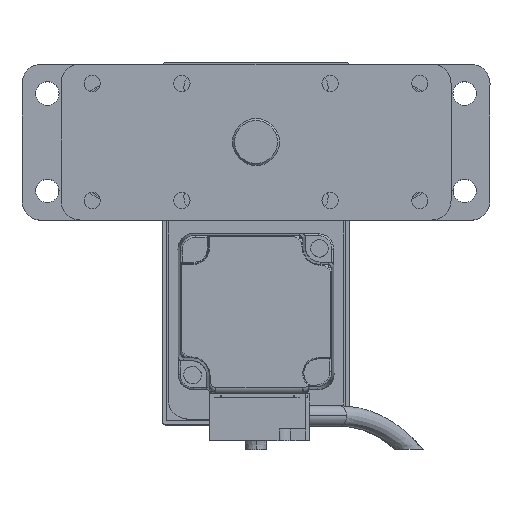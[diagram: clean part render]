
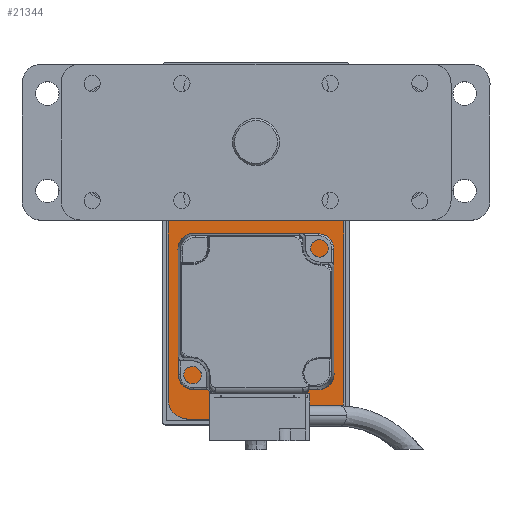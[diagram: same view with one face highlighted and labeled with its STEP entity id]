
A CAD part, top view. The second image highlights one B-rep face of the part: STEP entity #21344.
In plain terms, the highlighted planar face has unit normal (0, 0, 1).
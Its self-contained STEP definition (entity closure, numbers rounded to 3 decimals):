
#343 = CARTESIAN_POINT ( 'NONE',  ( 17.5, 45., 10. ) ) ;
#550 = EDGE_CURVE ( 'NONE', #14590, #12808, #15360, .T. ) ;
#1022 = CARTESIAN_POINT ( 'NONE',  ( 17.5, -45., 10. ) ) ;
#1677 = DIRECTION ( 'NONE',  ( 1., 0., 0. ) ) ;
#3595 = ORIENTED_EDGE ( 'NONE', *, *, #7976, .T. ) ;
#3664 = DIRECTION ( 'NONE',  ( 1., 0., 0. ) ) ;
#3813 = CARTESIAN_POINT ( 'NONE',  ( 17.5, 40., 10. ) ) ;
#4115 = CARTESIAN_POINT ( 'NONE',  ( -22.5, -45., 10. ) ) ;
#4387 = CIRCLE ( 'NONE', #16024, 5. ) ;
#4536 = VERTEX_POINT ( 'NONE', #14213 ) ;
#4779 = CIRCLE ( 'NONE', #15966, 5. ) ;
#5265 = PLANE ( 'NONE',  #27006 ) ;
#5357 = CARTESIAN_POINT ( 'NONE',  ( 0., 0., 10. ) ) ;
#5442 = DIRECTION ( 'NONE',  ( 1., 0., 0. ) ) ;
#5643 = LINE ( 'NONE', #8487, #14666 ) ;
#7668 = VECTOR ( 'NONE', #5442, 1000. ) ;
#7803 = CARTESIAN_POINT ( 'NONE',  ( -17.5, 40., 10. ) ) ;
#7816 = CARTESIAN_POINT ( 'NONE',  ( -17.5, -40., 10. ) ) ;
#7976 = EDGE_CURVE ( 'NONE', #23868, #14590, #27513, .T. ) ;
#8487 = CARTESIAN_POINT ( 'NONE',  ( 22.5, -45., 10. ) ) ;
#8826 = DIRECTION ( 'NONE',  ( 0., 0., 1. ) ) ;
#8859 = VERTEX_POINT ( 'NONE', #18088 ) ;
#9105 = DIRECTION ( 'NONE',  ( 1., 0., 0. ) ) ;
#9155 = CARTESIAN_POINT ( 'NONE',  ( 22.5, 40., 10. ) ) ;
#9721 = CARTESIAN_POINT ( 'NONE',  ( 22.5, -45., 10. ) ) ;
#9764 = CARTESIAN_POINT ( 'NONE',  ( 22.5, -40., 10. ) ) ;
#9841 = VERTEX_POINT ( 'NONE', #22794 ) ;
#10669 = ORIENTED_EDGE ( 'NONE', *, *, #550, .T. ) ;
#10993 = FACE_OUTER_BOUND ( 'NONE', #21877, .T. ) ;
#11067 = CARTESIAN_POINT ( 'NONE',  ( 17.5, -40., 10. ) ) ;
#11240 = CARTESIAN_POINT ( 'NONE',  ( -17.5, -45., 10. ) ) ;
#11382 = VERTEX_POINT ( 'NONE', #9155 ) ;
#12119 = LINE ( 'NONE', #12252, #28145 ) ;
#12252 = CARTESIAN_POINT ( 'NONE',  ( 22.5, 45., 10. ) ) ;
#12808 = VERTEX_POINT ( 'NONE', #9764 ) ;
#12929 = VECTOR ( 'NONE', #23760, 1000. ) ;
#14213 = CARTESIAN_POINT ( 'NONE',  ( -22.5, 40., 10. ) ) ;
#14292 = EDGE_CURVE ( 'NONE', #12808, #11382, #5643, .T. ) ;
#14590 = VERTEX_POINT ( 'NONE', #1022 ) ;
#14601 = DIRECTION ( 'NONE',  ( 0., 0., 1. ) ) ;
#14666 = VECTOR ( 'NONE', #26077, 1000. ) ;
#14939 = ORIENTED_EDGE ( 'NONE', *, *, #14292, .T. ) ;
#15360 = CIRCLE ( 'NONE', #20210, 5. ) ;
#15966 = AXIS2_PLACEMENT_3D ( 'NONE', #7816, #25716, #3664 ) ;
#16024 = AXIS2_PLACEMENT_3D ( 'NONE', #3813, #21874, #1677 ) ;
#17094 = LINE ( 'NONE', #4115, #12929 ) ;
#17835 = EDGE_CURVE ( 'NONE', #21217, #8859, #12119, .T. ) ;
#18088 = CARTESIAN_POINT ( 'NONE',  ( -17.5, 45., 10. ) ) ;
#18978 = EDGE_CURVE ( 'NONE', #9841, #23868, #4779, .T. ) ;
#20210 = AXIS2_PLACEMENT_3D ( 'NONE', #11067, #8826, #9105 ) ;
#20929 = DIRECTION ( 'NONE',  ( 0., 0., 1. ) ) ;
#21217 = VERTEX_POINT ( 'NONE', #343 ) ;
#21344 = ADVANCED_FACE ( 'NONE', ( #10993 ), #5265, .T. ) ;
#21543 = EDGE_CURVE ( 'NONE', #11382, #21217, #4387, .T. ) ;
#21874 = DIRECTION ( 'NONE',  ( 0., 0., 1. ) ) ;
#21877 = EDGE_LOOP ( 'NONE', ( #14939, #26303, #28367, #23517, #26637, #22371, #3595, #10669 ) ) ;
#22371 = ORIENTED_EDGE ( 'NONE', *, *, #18978, .T. ) ;
#22794 = CARTESIAN_POINT ( 'NONE',  ( -22.5, -40., 10. ) ) ;
#23172 = DIRECTION ( 'NONE',  ( 1., 0., 0. ) ) ;
#23209 = AXIS2_PLACEMENT_3D ( 'NONE', #7803, #14601, #23570 ) ;
#23517 = ORIENTED_EDGE ( 'NONE', *, *, #25291, .T. ) ;
#23570 = DIRECTION ( 'NONE',  ( 1., 0., 0. ) ) ;
#23760 = DIRECTION ( 'NONE',  ( 0., -1., 0. ) ) ;
#23868 = VERTEX_POINT ( 'NONE', #11240 ) ;
#25291 = EDGE_CURVE ( 'NONE', #8859, #4536, #28259, .T. ) ;
#25418 = EDGE_CURVE ( 'NONE', #4536, #9841, #17094, .T. ) ;
#25716 = DIRECTION ( 'NONE',  ( 0., 0., 1. ) ) ;
#26077 = DIRECTION ( 'NONE',  ( 0., 1., 0. ) ) ;
#26303 = ORIENTED_EDGE ( 'NONE', *, *, #21543, .T. ) ;
#26637 = ORIENTED_EDGE ( 'NONE', *, *, #25418, .T. ) ;
#27006 = AXIS2_PLACEMENT_3D ( 'NONE', #5357, #20929, #23172 ) ;
#27513 = LINE ( 'NONE', #9721, #7668 ) ;
#27811 = DIRECTION ( 'NONE',  ( -1., 0., 0. ) ) ;
#28145 = VECTOR ( 'NONE', #27811, 1000. ) ;
#28259 = CIRCLE ( 'NONE', #23209, 5. ) ;
#28367 = ORIENTED_EDGE ( 'NONE', *, *, #17835, .T. ) ;
